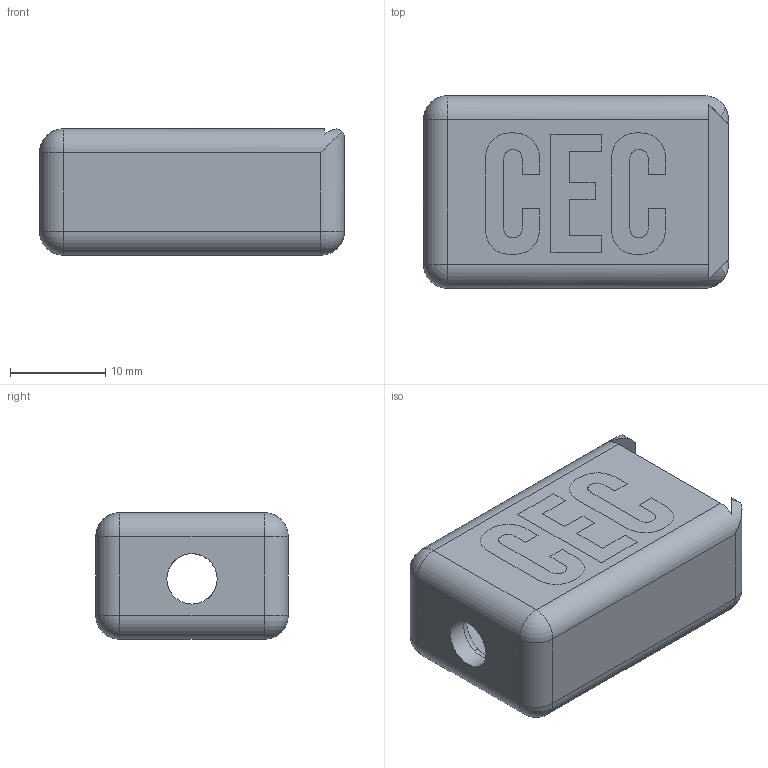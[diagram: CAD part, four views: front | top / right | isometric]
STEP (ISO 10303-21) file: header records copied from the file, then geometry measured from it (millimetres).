
FILE_DESCRIPTION(/* description */ ('STEP AP242 Edition 2','CAx-IF Rec.Pracs.---Representation and Presentation of Product Manufacturing Information (PMI)---4.0---2014-10-13','CAx-IF Rec.Pracs.---3D Tessellated Geometry---0.4---2014-09-14','2;1','CAx-IF Rec.Pracs.---User Defined Attributes---1.5---2016-08-15'),/* implementation_level */ '2;1');
FILE_NAME(/* name */ 'CEC Adapter',/* time_stamp */ '2026-06-15T03:26:12Z',/* author */ (''),/* organization */ (''),/* preprocessor_version */ 'ST-DEVELOPER v20',/* originating_system */ 'ONSHAPE BY PTC INC, 1.216',/* authorisation */ ' ');
FILE_SCHEMA (('AP242_MANAGED_MODEL_BASED_3D_ENGINEERING_MIM_LF { 1 0 10303 442 3 1 4 }'));
Length unit declared in the file: metre
Products named in the file (4): C; E; Body
Bounding box: 32.1 x 20.25 x 13.3 mm (x, y, z)
Volume: 4943.8 mm3; surface area: 4196.7 mm2
Topology: 4 solids, 4 shells, 298 faces, 827 edges, 540 vertices
Faces by surface type: plane 224, bspline 50, cylinder 16, sphere 6, torus 1, cone 1
Full cylindrical faces by diameter (mm): 5.3 x1
Entity records: 9606 total; most frequent: CARTESIAN_POINT 2255, ORIENTED_EDGE 1638, DIRECTION 1253, EDGE_CURVE 819, LINE 677, VECTOR 677, VERTEX_POINT 539, EDGE_LOOP 310
